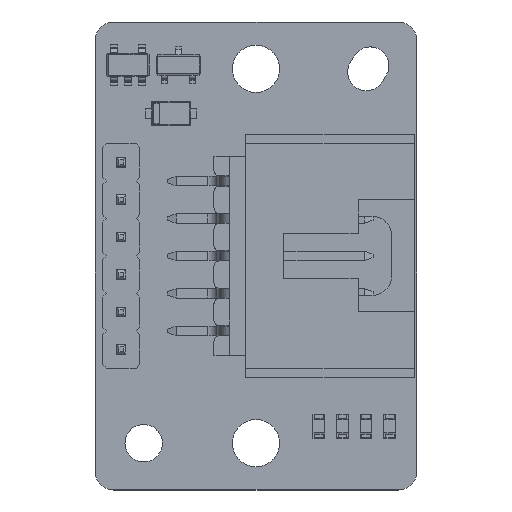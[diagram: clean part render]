
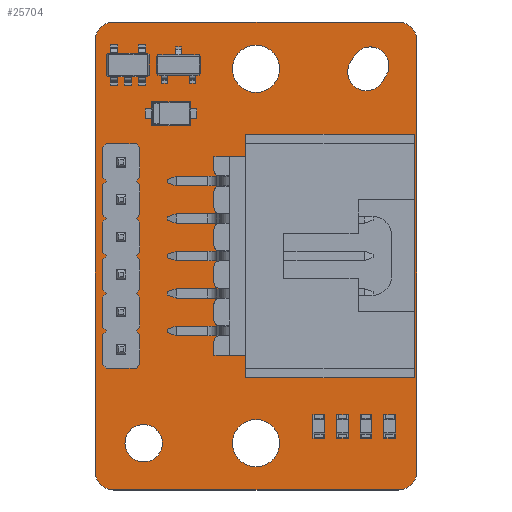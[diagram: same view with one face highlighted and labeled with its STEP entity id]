
A CAD part, top view. The second image highlights one B-rep face of the part: STEP entity #25704.
In plain terms, the highlighted planar face has unit normal (0, 0, 1).
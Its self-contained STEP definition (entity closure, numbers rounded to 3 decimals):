
#25398 = VERTEX_POINT('',#25399);
#25399 = CARTESIAN_POINT('',(240.208,-107.696,1.6));
#25405 = EDGE_CURVE('',#25398,#25406,#25408,.T.);
#25406 = VERTEX_POINT('',#25407);
#25407 = CARTESIAN_POINT('',(241.478,-108.966,1.6));
#25408 = CIRCLE('',#25409,1.27);
#25409 = AXIS2_PLACEMENT_3D('',#25410,#25411,#25412);
#25410 = CARTESIAN_POINT('',(240.208,-108.966,1.6));
#25411 = DIRECTION('',(0.,0.,-1.));
#25412 = DIRECTION('',(0.,1.,0.));
#25440 = VERTEX_POINT('',#25441);
#25441 = CARTESIAN_POINT('',(220.904,-107.696,1.6));
#25447 = EDGE_CURVE('',#25440,#25398,#25448,.T.);
#25448 = LINE('',#25449,#25450);
#25449 = CARTESIAN_POINT('',(220.904,-107.696,1.6));
#25450 = VECTOR('',#25451,1.);
#25451 = DIRECTION('',(1.,0.,0.));
#25469 = EDGE_CURVE('',#25406,#25470,#25472,.T.);
#25470 = VERTEX_POINT('',#25471);
#25471 = CARTESIAN_POINT('',(241.478,-138.176,1.6));
#25472 = LINE('',#25473,#25474);
#25473 = CARTESIAN_POINT('',(241.478,-108.966,1.6));
#25474 = VECTOR('',#25475,1.);
#25475 = DIRECTION('',(0.,-1.,0.));
#25704 = ADVANCED_FACE('',(#25705,#25751,#25762,#25773,#25784,#25795,
    #25806,#25817,#25828,#25839,#25850,#25861,#25872),#25908,.T.);
#25705 = FACE_BOUND('',#25706,.T.);
#25706 = EDGE_LOOP('',(#25707,#25708,#25709,#25718,#25726,#25735,#25743,
    #25750));
#25707 = ORIENTED_EDGE('',*,*,#25405,.F.);
#25708 = ORIENTED_EDGE('',*,*,#25447,.F.);
#25709 = ORIENTED_EDGE('',*,*,#25710,.F.);
#25710 = EDGE_CURVE('',#25711,#25440,#25713,.T.);
#25711 = VERTEX_POINT('',#25712);
#25712 = CARTESIAN_POINT('',(219.634,-108.966,1.6));
#25713 = CIRCLE('',#25714,1.27);
#25714 = AXIS2_PLACEMENT_3D('',#25715,#25716,#25717);
#25715 = CARTESIAN_POINT('',(220.904,-108.966,1.6));
#25716 = DIRECTION('',(0.,0.,-1.));
#25717 = DIRECTION('',(-1.,0.,-0.));
#25718 = ORIENTED_EDGE('',*,*,#25719,.F.);
#25719 = EDGE_CURVE('',#25720,#25711,#25722,.T.);
#25720 = VERTEX_POINT('',#25721);
#25721 = CARTESIAN_POINT('',(219.634,-138.176,1.6));
#25722 = LINE('',#25723,#25724);
#25723 = CARTESIAN_POINT('',(219.634,-138.176,1.6));
#25724 = VECTOR('',#25725,1.);
#25725 = DIRECTION('',(0.,1.,0.));
#25726 = ORIENTED_EDGE('',*,*,#25727,.F.);
#25727 = EDGE_CURVE('',#25728,#25720,#25730,.T.);
#25728 = VERTEX_POINT('',#25729);
#25729 = CARTESIAN_POINT('',(220.904,-139.446,1.6));
#25730 = CIRCLE('',#25731,1.27);
#25731 = AXIS2_PLACEMENT_3D('',#25732,#25733,#25734);
#25732 = CARTESIAN_POINT('',(220.904,-138.176,1.6));
#25733 = DIRECTION('',(0.,0.,-1.));
#25734 = DIRECTION('',(0.,-1.,0.));
#25735 = ORIENTED_EDGE('',*,*,#25736,.F.);
#25736 = EDGE_CURVE('',#25737,#25728,#25739,.T.);
#25737 = VERTEX_POINT('',#25738);
#25738 = CARTESIAN_POINT('',(240.208,-139.446,1.6));
#25739 = LINE('',#25740,#25741);
#25740 = CARTESIAN_POINT('',(240.208,-139.446,1.6));
#25741 = VECTOR('',#25742,1.);
#25742 = DIRECTION('',(-1.,0.,0.));
#25743 = ORIENTED_EDGE('',*,*,#25744,.F.);
#25744 = EDGE_CURVE('',#25470,#25737,#25745,.T.);
#25745 = CIRCLE('',#25746,1.27);
#25746 = AXIS2_PLACEMENT_3D('',#25747,#25748,#25749);
#25747 = CARTESIAN_POINT('',(240.208,-138.176,1.6));
#25748 = DIRECTION('',(0.,0.,-1.));
#25749 = DIRECTION('',(1.,0.,0.));
#25750 = ORIENTED_EDGE('',*,*,#25469,.F.);
#25751 = FACE_BOUND('',#25752,.T.);
#25752 = EDGE_LOOP('',(#25753));
#25753 = ORIENTED_EDGE('',*,*,#25754,.T.);
#25754 = EDGE_CURVE('',#25755,#25755,#25757,.T.);
#25755 = VERTEX_POINT('',#25756);
#25756 = CARTESIAN_POINT('',(222.936,-137.541,1.6));
#25757 = CIRCLE('',#25758,1.27);
#25758 = AXIS2_PLACEMENT_3D('',#25759,#25760,#25761);
#25759 = CARTESIAN_POINT('',(222.936,-136.271,1.6));
#25760 = DIRECTION('',(-0.,0.,-1.));
#25761 = DIRECTION('',(-0.,-1.,0.));
#25762 = FACE_BOUND('',#25763,.T.);
#25763 = EDGE_LOOP('',(#25764));
#25764 = ORIENTED_EDGE('',*,*,#25765,.T.);
#25765 = EDGE_CURVE('',#25766,#25766,#25768,.T.);
#25766 = VERTEX_POINT('',#25767);
#25767 = CARTESIAN_POINT('',(221.412,-130.421,1.6));
#25768 = CIRCLE('',#25769,0.5);
#25769 = AXIS2_PLACEMENT_3D('',#25770,#25771,#25772);
#25770 = CARTESIAN_POINT('',(221.412,-129.921,1.6));
#25771 = DIRECTION('',(-0.,0.,-1.));
#25772 = DIRECTION('',(-0.,-1.,0.));
#25773 = FACE_BOUND('',#25774,.T.);
#25774 = EDGE_LOOP('',(#25775));
#25775 = ORIENTED_EDGE('',*,*,#25776,.T.);
#25776 = EDGE_CURVE('',#25777,#25777,#25779,.T.);
#25777 = VERTEX_POINT('',#25778);
#25778 = CARTESIAN_POINT('',(221.412,-127.881,1.6));
#25779 = CIRCLE('',#25780,0.5);
#25780 = AXIS2_PLACEMENT_3D('',#25781,#25782,#25783);
#25781 = CARTESIAN_POINT('',(221.412,-127.381,1.6));
#25782 = DIRECTION('',(-0.,0.,-1.));
#25783 = DIRECTION('',(-0.,-1.,0.));
#25784 = FACE_BOUND('',#25785,.T.);
#25785 = EDGE_LOOP('',(#25786));
#25786 = ORIENTED_EDGE('',*,*,#25787,.T.);
#25787 = EDGE_CURVE('',#25788,#25788,#25790,.T.);
#25788 = VERTEX_POINT('',#25789);
#25789 = CARTESIAN_POINT('',(221.412,-125.341,1.6));
#25790 = CIRCLE('',#25791,0.5);
#25791 = AXIS2_PLACEMENT_3D('',#25792,#25793,#25794);
#25792 = CARTESIAN_POINT('',(221.412,-124.841,1.6));
#25793 = DIRECTION('',(-0.,0.,-1.));
#25794 = DIRECTION('',(-0.,-1.,0.));
#25795 = FACE_BOUND('',#25796,.T.);
#25796 = EDGE_LOOP('',(#25797));
#25797 = ORIENTED_EDGE('',*,*,#25798,.T.);
#25798 = EDGE_CURVE('',#25799,#25799,#25801,.T.);
#25799 = VERTEX_POINT('',#25800);
#25800 = CARTESIAN_POINT('',(230.556,-137.871,1.6));
#25801 = CIRCLE('',#25802,1.6);
#25802 = AXIS2_PLACEMENT_3D('',#25803,#25804,#25805);
#25803 = CARTESIAN_POINT('',(230.556,-136.271,1.6));
#25804 = DIRECTION('',(-0.,0.,-1.));
#25805 = DIRECTION('',(-0.,-1.,0.));
#25806 = FACE_BOUND('',#25807,.T.);
#25807 = EDGE_LOOP('',(#25808));
#25808 = ORIENTED_EDGE('',*,*,#25809,.T.);
#25809 = EDGE_CURVE('',#25810,#25810,#25812,.T.);
#25810 = VERTEX_POINT('',#25811);
#25811 = CARTESIAN_POINT('',(237.178,-131.751,1.6));
#25812 = CIRCLE('',#25813,1.7);
#25813 = AXIS2_PLACEMENT_3D('',#25814,#25815,#25816);
#25814 = CARTESIAN_POINT('',(237.178,-130.051,1.6));
#25815 = DIRECTION('',(-0.,0.,-1.));
#25816 = DIRECTION('',(-0.,-1.,0.));
#25817 = FACE_BOUND('',#25818,.T.);
#25818 = EDGE_LOOP('',(#25819));
#25819 = ORIENTED_EDGE('',*,*,#25820,.T.);
#25820 = EDGE_CURVE('',#25821,#25821,#25823,.T.);
#25821 = VERTEX_POINT('',#25822);
#25822 = CARTESIAN_POINT('',(221.412,-122.801,1.6));
#25823 = CIRCLE('',#25824,0.5);
#25824 = AXIS2_PLACEMENT_3D('',#25825,#25826,#25827);
#25825 = CARTESIAN_POINT('',(221.412,-122.301,1.6));
#25826 = DIRECTION('',(-0.,0.,-1.));
#25827 = DIRECTION('',(-0.,-1.,0.));
#25828 = FACE_BOUND('',#25829,.T.);
#25829 = EDGE_LOOP('',(#25830));
#25830 = ORIENTED_EDGE('',*,*,#25831,.T.);
#25831 = EDGE_CURVE('',#25832,#25832,#25834,.T.);
#25832 = VERTEX_POINT('',#25833);
#25833 = CARTESIAN_POINT('',(221.412,-120.261,1.6));
#25834 = CIRCLE('',#25835,0.5);
#25835 = AXIS2_PLACEMENT_3D('',#25836,#25837,#25838);
#25836 = CARTESIAN_POINT('',(221.412,-119.761,1.6));
#25837 = DIRECTION('',(-0.,0.,-1.));
#25838 = DIRECTION('',(-0.,-1.,0.));
#25839 = FACE_BOUND('',#25840,.T.);
#25840 = EDGE_LOOP('',(#25841));
#25841 = ORIENTED_EDGE('',*,*,#25842,.T.);
#25842 = EDGE_CURVE('',#25843,#25843,#25845,.T.);
#25843 = VERTEX_POINT('',#25844);
#25844 = CARTESIAN_POINT('',(221.412,-117.721,1.6));
#25845 = CIRCLE('',#25846,0.5);
#25846 = AXIS2_PLACEMENT_3D('',#25847,#25848,#25849);
#25847 = CARTESIAN_POINT('',(221.412,-117.221,1.6));
#25848 = DIRECTION('',(-0.,0.,-1.));
#25849 = DIRECTION('',(-0.,-1.,0.));
#25850 = FACE_BOUND('',#25851,.T.);
#25851 = EDGE_LOOP('',(#25852));
#25852 = ORIENTED_EDGE('',*,*,#25853,.T.);
#25853 = EDGE_CURVE('',#25854,#25854,#25856,.T.);
#25854 = VERTEX_POINT('',#25855);
#25855 = CARTESIAN_POINT('',(237.178,-118.791,1.6));
#25856 = CIRCLE('',#25857,1.7);
#25857 = AXIS2_PLACEMENT_3D('',#25858,#25859,#25860);
#25858 = CARTESIAN_POINT('',(237.178,-117.091,1.6));
#25859 = DIRECTION('',(-0.,0.,-1.));
#25860 = DIRECTION('',(-0.,-1.,0.));
#25861 = FACE_BOUND('',#25862,.T.);
#25862 = EDGE_LOOP('',(#25863));
#25863 = ORIENTED_EDGE('',*,*,#25864,.T.);
#25864 = EDGE_CURVE('',#25865,#25865,#25867,.T.);
#25865 = VERTEX_POINT('',#25866);
#25866 = CARTESIAN_POINT('',(230.556,-112.471,1.6));
#25867 = CIRCLE('',#25868,1.6);
#25868 = AXIS2_PLACEMENT_3D('',#25869,#25870,#25871);
#25869 = CARTESIAN_POINT('',(230.556,-110.871,1.6));
#25870 = DIRECTION('',(-0.,0.,-1.));
#25871 = DIRECTION('',(-0.,-1.,0.));
#25872 = FACE_BOUND('',#25873,.T.);
#25873 = EDGE_LOOP('',(#25874,#25885,#25893,#25902));
#25874 = ORIENTED_EDGE('',*,*,#25875,.T.);
#25875 = EDGE_CURVE('',#25876,#25878,#25880,.T.);
#25876 = VERTEX_POINT('',#25877);
#25877 = CARTESIAN_POINT('',(237.218,-109.999,1.6));
#25878 = VERTEX_POINT('',#25879);
#25879 = CARTESIAN_POINT('',(239.395,-111.307,1.6));
#25880 = CIRCLE('',#25881,1.27);
#25881 = AXIS2_PLACEMENT_3D('',#25882,#25883,#25884);
#25882 = CARTESIAN_POINT('',(238.307,-110.653,1.6));
#25883 = DIRECTION('',(0.,-0.,-1.));
#25884 = DIRECTION('',(0.857,-0.515,0.));
#25885 = ORIENTED_EDGE('',*,*,#25886,.T.);
#25886 = EDGE_CURVE('',#25878,#25887,#25889,.T.);
#25887 = VERTEX_POINT('',#25888);
#25888 = CARTESIAN_POINT('',(239.134,-111.743,1.6));
#25889 = LINE('',#25890,#25891);
#25890 = CARTESIAN_POINT('',(232.082,-123.478,1.6));
#25891 = VECTOR('',#25892,1.);
#25892 = DIRECTION('',(-0.515,-0.857,0.));
#25893 = ORIENTED_EDGE('',*,*,#25894,.T.);
#25894 = EDGE_CURVE('',#25887,#25895,#25897,.T.);
#25895 = VERTEX_POINT('',#25896);
#25896 = CARTESIAN_POINT('',(236.956,-110.435,1.6));
#25897 = CIRCLE('',#25898,1.27);
#25898 = AXIS2_PLACEMENT_3D('',#25899,#25900,#25901);
#25899 = CARTESIAN_POINT('',(238.045,-111.089,1.6));
#25900 = DIRECTION('',(-0.,0.,-1.));
#25901 = DIRECTION('',(-0.857,0.515,0.));
#25902 = ORIENTED_EDGE('',*,*,#25903,.T.);
#25903 = EDGE_CURVE('',#25895,#25876,#25904,.T.);
#25904 = LINE('',#25905,#25906);
#25905 = CARTESIAN_POINT('',(230.036,-121.952,1.6));
#25906 = VECTOR('',#25907,1.);
#25907 = DIRECTION('',(0.515,0.857,-0.));
#25908 = PLANE('',#25909);
#25909 = AXIS2_PLACEMENT_3D('',#25910,#25911,#25912);
#25910 = CARTESIAN_POINT('',(0.,0.,1.6));
#25911 = DIRECTION('',(0.,0.,1.));
#25912 = DIRECTION('',(1.,0.,-0.));
